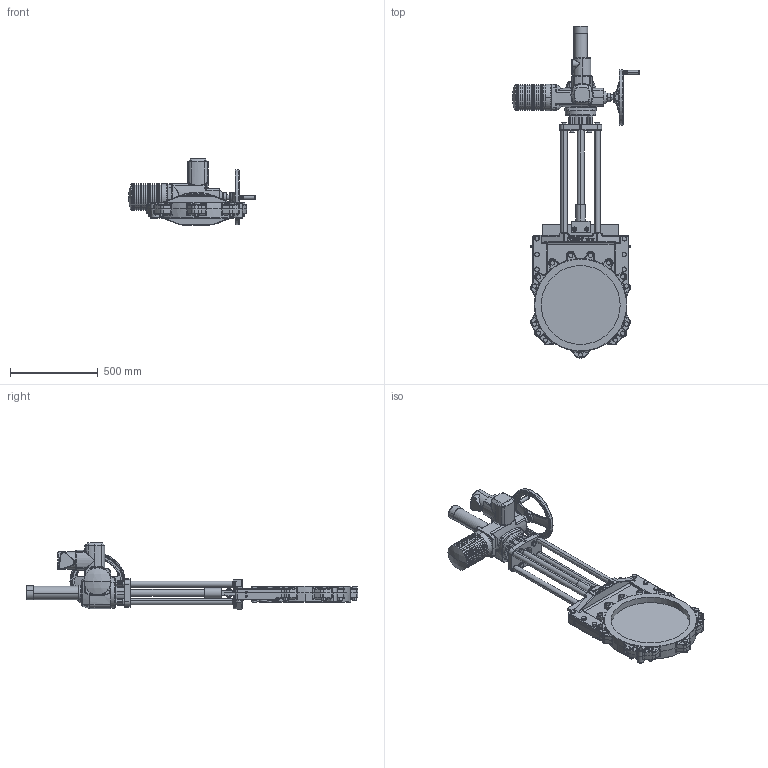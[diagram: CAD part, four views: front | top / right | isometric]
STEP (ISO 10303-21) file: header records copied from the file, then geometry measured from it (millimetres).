
FILE_DESCRIPTION (( 'STEP AP214' ), '1' );
FILE_NAME ('VSE DN 0450.STEP', '2015-09-23T11:23:15', ( 'admin' ), ( 'Hewlett-Packard Company' ), 'SwSTEP 2.0', 'SolidWorks 2013', '' );
FILE_SCHEMA (( 'AUTOMOTIVE_DESIGN' ));
Length unit declared in the file: millimetre
Products named in the file (1): VSE DN 0450
Bounding box: 725 x 1892.97 x 378.25 mm (x, y, z)
Volume: 37117208.9 mm3; surface area: 2746626.2 mm2
Topology: 58 solids, 71 shells, 3424 faces, 7921 edges, 4583 vertices
Faces by surface type: plane 985, cylinder 806, cone 649, bspline 642, torus 328, sphere 14
Entity records: 171514 total; most frequent: CARTESIAN_POINT 61039, ORIENTED_EDGE 15478, DIRECTION 14439, EDGE_CURVE 7739, AXIS2_PLACEMENT_3D 5986, VERTEX_POINT 4583, EDGE_LOOP 3670, UNCERTAINTY_MEASURE_WITH_UNIT 3484
